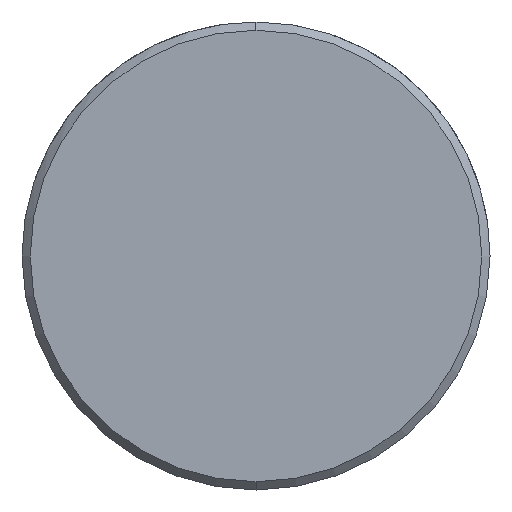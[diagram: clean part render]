
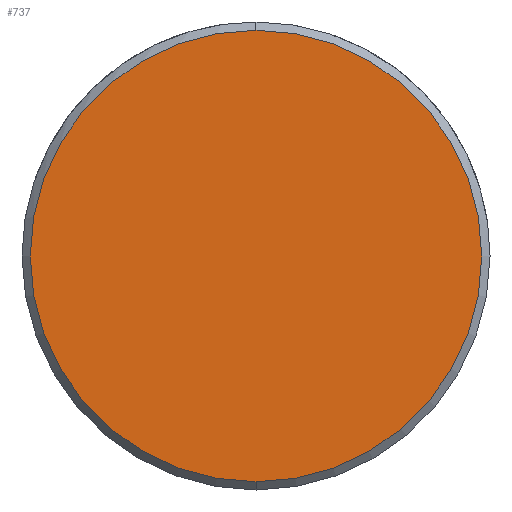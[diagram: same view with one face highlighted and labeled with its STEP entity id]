
A CAD part, left-side view. The second image highlights one B-rep face of the part: STEP entity #737.
In plain terms, the highlighted planar face has unit normal (-1, 0, 0).
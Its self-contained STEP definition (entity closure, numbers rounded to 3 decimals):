
#669=CARTESIAN_POINT('Vertex',(0.,0.,-8.2)) ;
#672=CARTESIAN_POINT('Axis2P3D Location',(0.,0.,0.)) ;
#676=CARTESIAN_POINT('Vertex',(0.,8.2,0.)) ;
#679=CARTESIAN_POINT('Axis2P3D Location',(0.,0.,0.)) ;
#683=CARTESIAN_POINT('Vertex',(0.,0.,8.2)) ;
#705=CARTESIAN_POINT('Axis2P3D Location',(0.,0.,0.)) ;
#709=CARTESIAN_POINT('Vertex',(0.,-8.2,0.)) ;
#712=CARTESIAN_POINT('Axis2P3D Location',(0.,0.,0.)) ;
#726=CARTESIAN_POINT('Axis2P3D Location',(0.,0.,0.)) ;
#673=DIRECTION('Axis2P3D Direction',(1.,0.,-0.)) ;
#680=DIRECTION('Axis2P3D Direction',(1.,0.,-0.)) ;
#706=DIRECTION('Axis2P3D Direction',(1.,0.,-0.)) ;
#713=DIRECTION('Axis2P3D Direction',(1.,0.,-0.)) ;
#727=DIRECTION('Axis2P3D Direction',(1.,0.,-0.)) ;
#728=DIRECTION('Axis2P3D XDirection',(-0.,0.,-1.)) ;
#674=AXIS2_PLACEMENT_3D('Circle Axis2P3D',#672,#673,$) ;
#681=AXIS2_PLACEMENT_3D('Circle Axis2P3D',#679,#680,$) ;
#707=AXIS2_PLACEMENT_3D('Circle Axis2P3D',#705,#706,$) ;
#714=AXIS2_PLACEMENT_3D('Circle Axis2P3D',#712,#713,$) ;
#729=AXIS2_PLACEMENT_3D('Plane Axis2P3D',#726,#727,#728) ;
#732=ORIENTED_EDGE('',*,*,#678,.F.) ;
#733=ORIENTED_EDGE('',*,*,#716,.F.) ;
#734=ORIENTED_EDGE('',*,*,#711,.F.) ;
#735=ORIENTED_EDGE('',*,*,#685,.F.) ;
#737=ADVANCED_FACE('549-14X100',(#736),#730,.F.) ;
#675=CIRCLE('generated circle',#674,8.2) ;
#682=CIRCLE('generated circle',#681,8.2) ;
#708=CIRCLE('generated circle',#707,8.2) ;
#715=CIRCLE('generated circle',#714,8.2) ;
#678=EDGE_CURVE('',#670,#677,#675,.T.) ;
#685=EDGE_CURVE('',#677,#684,#682,.T.) ;
#711=EDGE_CURVE('',#684,#710,#708,.T.) ;
#716=EDGE_CURVE('',#710,#670,#715,.T.) ;
#731=EDGE_LOOP('',(#732,#733,#734,#735)) ;
#736=FACE_OUTER_BOUND('',#731,.T.) ;
#730=PLANE('Plane',#729) ;
#670=VERTEX_POINT('',#669) ;
#677=VERTEX_POINT('',#676) ;
#684=VERTEX_POINT('',#683) ;
#710=VERTEX_POINT('',#709) ;
